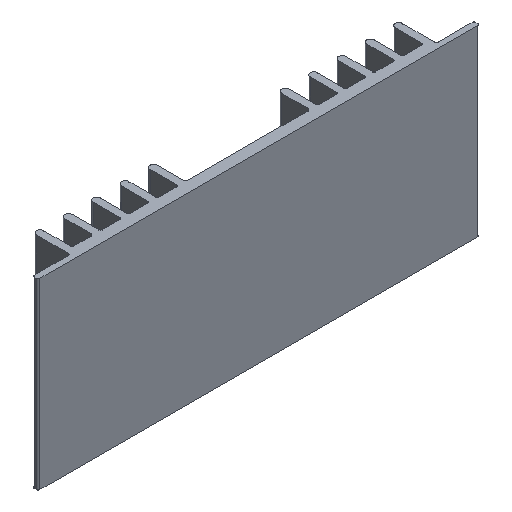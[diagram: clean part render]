
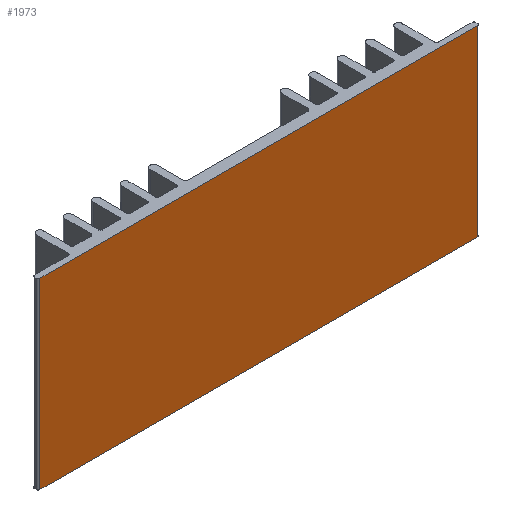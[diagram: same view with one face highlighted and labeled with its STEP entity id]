
A CAD part, isometric view. The second image highlights one B-rep face of the part: STEP entity #1973.
In plain terms, the highlighted planar face has unit normal (0, -1, 0).
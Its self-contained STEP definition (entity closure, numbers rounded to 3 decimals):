
#34 = VERTEX_POINT ( 'NONE', #283 ) ;
#122 = ORIENTED_EDGE ( 'NONE', *, *, #2165, .T. ) ;
#184 = VERTEX_POINT ( 'NONE', #1091 ) ;
#283 = CARTESIAN_POINT ( 'NONE',  ( 59.75, 0., 0. ) ) ;
#299 = EDGE_CURVE ( 'NONE', #2143, #184, #1193, .T. ) ;
#461 = ORIENTED_EDGE ( 'NONE', *, *, #299, .F. ) ;
#496 = LINE ( 'NONE', #497, #498 ) ;
#497 = CARTESIAN_POINT ( 'NONE',  ( 59.75, 0., 0. ) ) ;
#498 = VECTOR ( 'NONE', #502, 1000. ) ;
#502 = DIRECTION ( 'NONE',  ( 1., 0., 0. ) ) ;
#741 = CARTESIAN_POINT ( 'NONE',  ( -59.75, 0., 50. ) ) ;
#850 = LINE ( 'NONE', #852, #853 ) ;
#852 = CARTESIAN_POINT ( 'NONE',  ( -59.75, 0., 50. ) ) ;
#853 = VECTOR ( 'NONE', #854, 1000. ) ;
#854 = DIRECTION ( 'NONE',  ( 0., 0., -1. ) ) ;
#1091 = CARTESIAN_POINT ( 'NONE',  ( 59.75, 0., 50. ) ) ;
#1120 = ORIENTED_EDGE ( 'NONE', *, *, #2018, .F. ) ;
#1193 = LINE ( 'NONE', #1194, #1195 ) ;
#1194 = CARTESIAN_POINT ( 'NONE',  ( 59.75, 0., 50. ) ) ;
#1195 = VECTOR ( 'NONE', #1196, 1000. ) ;
#1196 = DIRECTION ( 'NONE',  ( 1., 0., 0. ) ) ;
#1263 = FACE_OUTER_BOUND ( 'NONE', #1933, .T. ) ;
#1264 = PLANE ( 'NONE',  #1265 ) ;
#1265 = AXIS2_PLACEMENT_3D ( 'NONE', #1266, #1267, #1268 ) ;
#1266 = CARTESIAN_POINT ( 'NONE',  ( 59.75, 0., 50. ) ) ;
#1267 = DIRECTION ( 'NONE',  ( 0., 1., 0. ) ) ;
#1268 = DIRECTION ( 'NONE',  ( 0., 0., 1. ) ) ;
#1444 = LINE ( 'NONE', #1445, #1446 ) ;
#1445 = CARTESIAN_POINT ( 'NONE',  ( 59.75, 0., 50. ) ) ;
#1446 = VECTOR ( 'NONE', #1447, 1000. ) ;
#1447 = DIRECTION ( 'NONE',  ( 0., 0., -1. ) ) ;
#1502 = CARTESIAN_POINT ( 'NONE',  ( -59.75, 0., 0. ) ) ;
#1606 = EDGE_CURVE ( 'NONE', #2261, #34, #496, .T. ) ;
#1886 = ORIENTED_EDGE ( 'NONE', *, *, #1606, .T. ) ;
#1933 = EDGE_LOOP ( 'NONE', ( #1886, #1120, #461, #122 ) ) ;
#1973 = ADVANCED_FACE ( 'NONE', ( #1263 ), #1264, .F. ) ;
#2018 = EDGE_CURVE ( 'NONE', #184, #34, #1444, .T. ) ;
#2143 = VERTEX_POINT ( 'NONE', #741 ) ;
#2165 = EDGE_CURVE ( 'NONE', #2143, #2261, #850, .T. ) ;
#2261 = VERTEX_POINT ( 'NONE', #1502 ) ;
